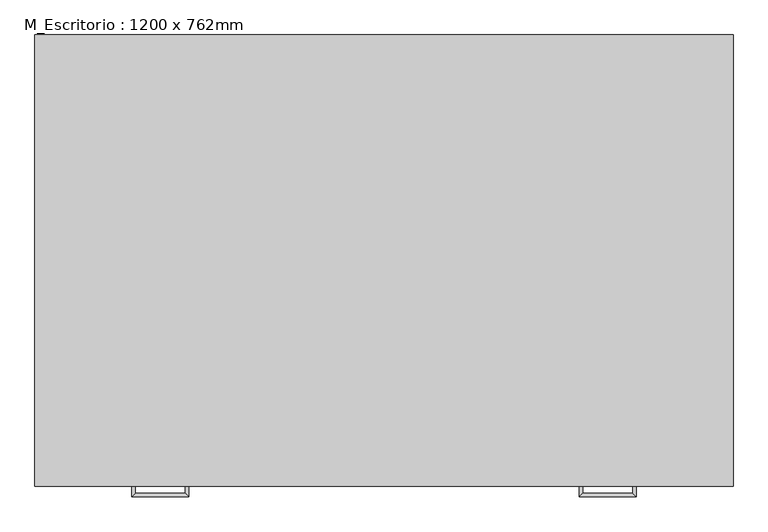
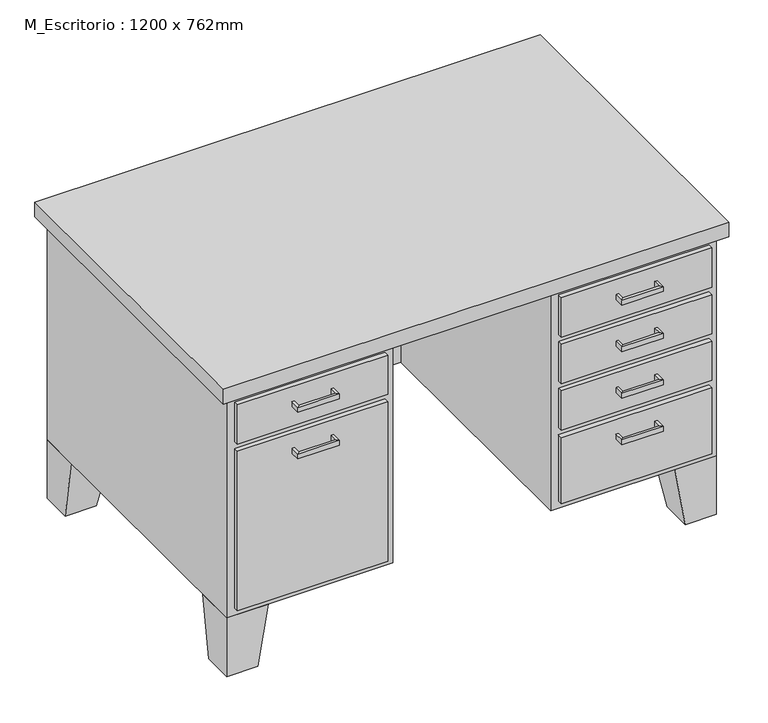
"""IFC4 building model written with IfcOpenShell, lengths in millimetres: furniture geometry, M_Escritorio : 1200 x 762mm."""

import ifcopenshell
import ifcopenshell.guid

model = None  # the IFC model being written
_history = None  # IfcOwnerHistory: only IFC2X3 demands one
_inside = {}  # id of a spatial element -> (the spatial element, [elements in it])
_under = {}  # id of a project, library or spatial element -> (it, [spatial elements below it])
_declared = {}  # id of a project -> (the project, [libraries it declares])
_typed = {}  # id of a type object -> (the type object, [elements of that type])
_made_of = {}  # id of a material, layer set ... -> (it, [elements and type objects made of it])


def new_model(schema):
    """Start an empty IFC model of exactly this schema.

    Asked for "IFC4X3", IfcOpenShell would pick the latest addendum, in which some entities
    have other attributes; the version numbers below select the first issue.
    IFC2X3 requires an IfcOwnerHistory on every rooted entity: one is made here for all.
    """
    global model, _history
    if schema == "IFC4X3":
        model = ifcopenshell.file(schema_version=(4, 3, 0, 0))
    else:
        model = ifcopenshell.file(schema=schema)
    _inside.clear()
    _under.clear()
    _declared.clear()
    _typed.clear()
    _made_of.clear()
    _history = None
    if model.schema == "IFC2X3":
        org = make("IfcOrganization", Name="unknown")
        user = make(
            "IfcPersonAndOrganization",
            ThePerson=make("IfcPerson", FamilyName="unknown"),
            TheOrganization=org,
        )
        app = make(
            "IfcApplication",
            ApplicationDeveloper=org,
            Version="unknown",
            ApplicationFullName="unknown",
            ApplicationIdentifier="unknown",
        )
        _history = make(
            "IfcOwnerHistory",
            OwningUser=user,
            OwningApplication=app,
            ChangeAction="ADDED",
            CreationDate=0,
        )
    return model


def make(cls, **values):
    """One entity of the class cls with the attributes given. An attribute that is None is left unset."""
    return model.create_entity(
        cls, **{name: value for name, value in values.items() if value is not None}
    )


def rooted(cls, **values):
    """An entity with a GlobalId (a new one), such as an element, a storey or a relation."""
    return make(cls, GlobalId=ifcopenshell.guid.new(), OwnerHistory=_history, **values)


def si_unit(unit_type, name, prefix=None):
    """IfcSIUnit, for example si_unit("LENGTHUNIT", "METRE", prefix="MILLI")."""
    return make("IfcSIUnit", UnitType=unit_type, Prefix=prefix, Name=name)


def assignment(units):
    """IfcUnitAssignment: the units of a project."""
    return None if units is None else make("IfcUnitAssignment", Units=units)


def point(xyz):
    """IfcCartesianPoint."""
    return None if xyz is None else make("IfcCartesianPoint", Coordinates=xyz)


def direction(xyz):
    """IfcDirection."""
    return None if xyz is None else make("IfcDirection", DirectionRatios=xyz)


def frame(location, z_axis=None, x_axis=None):
    """IfcAxis2Placement3D, a coordinate frame: its origin and axes. An axis left out is left unset."""
    return make(
        "IfcAxis2Placement3D",
        Location=point(location),
        Axis=direction(z_axis),
        RefDirection=direction(x_axis),
    )


def origin():
    """The frame at (0, 0, 0) with its axes left unset."""
    return frame((0.0, 0.0, 0.0))


def place(relative_to, where):
    """IfcLocalPlacement: puts the frame where relative to a parent placement (None: the world)."""
    return make(
        "IfcLocalPlacement", PlacementRelTo=relative_to, RelativePlacement=where
    )


def context(
    kind, dimensions, precision=None, world=None, true_north=None, identifier=None
):
    """IfcGeometricRepresentationContext, for example the 3D "Model" context."""
    return make(
        "IfcGeometricRepresentationContext",
        ContextIdentifier=identifier,
        ContextType=kind,
        CoordinateSpaceDimension=dimensions,
        Precision=precision,
        WorldCoordinateSystem=world,
        TrueNorth=true_north,
    )


def project(units=None, contexts=None):
    """IfcProject with its units and contexts."""
    return rooted(
        "IfcProject",
        Name="project",
        RepresentationContexts=contexts,
        UnitsInContext=assignment(units),
    )


def spatial(cls, under=None, at=None, **own):
    """A site, building, storey or space (cls), placed at a placement, below another one or the project."""
    s = rooted(cls, ObjectPlacement=at, **own)
    if under is not None:
        _under.setdefault(under.id(), (under, []))[1].append(s)
    return s


def polyline(points):
    """IfcPolyline through the points."""
    return make("IfcPolyline", Points=[point(p) for p in points])


def outline(outer, holes=None, kind="AREA"):
    """IfcArbitraryClosedProfileDef: a profile drawn as a closed curve; with holes, ...WithVoids."""
    if holes is None:
        return make("IfcArbitraryClosedProfileDef", ProfileType=kind, OuterCurve=outer)
    return make(
        "IfcArbitraryProfileDefWithVoids",
        ProfileType=kind,
        OuterCurve=outer,
        InnerCurves=holes,
    )


def extrude(swept, where, along, depth):
    """IfcExtrudedAreaSolid: the profile swept, set in the frame where, extruded along a direction by depth."""
    return make(
        "IfcExtrudedAreaSolid",
        SweptArea=swept,
        Position=where,
        ExtrudedDirection=direction(along),
        Depth=depth,
    )


def faces_of(points, faces, orient=None, outer=None):
    """IfcFace entities. A face is a list of loops; a loop is a list of indices into points, from 0.

    orient and outer hold one flag for each loop. By default every Orientation is true, the
    first loop of a face is its IfcFaceOuterBound and the others are IfcFaceBound.
    """
    made = []
    for i, loops in enumerate(faces):
        bounds = []
        for j, loop in enumerate(loops):
            is_outer = j == 0 if outer is None else outer[i][j]
            bounds.append(
                make(
                    "IfcFaceOuterBound" if is_outer else "IfcFaceBound",
                    Bound=make("IfcPolyLoop", Polygon=[points[k] for k in loop]),
                    Orientation=True if orient is None else orient[i][j],
                )
            )
        made.append(make("IfcFace", Bounds=bounds))
    return made


def faceted_brep(points, faces, orient=None, outer=None, voids=None):
    """IfcFacetedBrep: a solid bounded by flat faces; with voids (closed shells), ...WithVoids."""
    shared = [point(p) for p in points]
    hull = make("IfcClosedShell", CfsFaces=faces_of(shared, faces, orient, outer))
    if voids is None:
        return make("IfcFacetedBrep", Outer=hull)
    return make(
        "IfcFacetedBrepWithVoids",
        Outer=hull,
        Voids=[
            make(cls, CfsFaces=faces_of(shared, fs, o, b)) for cls, fs, o, b in voids
        ],
    )


def shape(context_of_items, identifier, shape_type, items):
    """IfcShapeRepresentation: the items that make up one representation, for example the "Body"."""
    return make(
        "IfcShapeRepresentation",
        ContextOfItems=context_of_items,
        RepresentationIdentifier=identifier,
        RepresentationType=shape_type,
        Items=items,
    )


def source(mapping_origin, context_of_items, identifier, shape_type, items):
    """IfcRepresentationMap: a shape defined once, which mapped items show again and again."""
    return make(
        "IfcRepresentationMap",
        MappingOrigin=mapping_origin,
        MappedRepresentation=shape(context_of_items, identifier, shape_type, items),
    )


def transform(
    local_origin,
    x_axis=None,
    y_axis=None,
    z_axis=None,
    scale=None,
    scale2=None,
    scale3=None,
    uniform=True,
):
    """IfcCartesianTransformationOperator3D, or its non-uniform kind. x_axis, y_axis, z_axis: its Axis1, 2, 3."""
    if uniform:
        return make(
            "IfcCartesianTransformationOperator3D",
            Axis1=direction(x_axis),
            Axis2=direction(y_axis),
            LocalOrigin=point(local_origin),
            Scale=scale,
            Axis3=direction(z_axis),
        )
    return make(
        "IfcCartesianTransformationOperator3DnonUniform",
        Axis1=direction(x_axis),
        Axis2=direction(y_axis),
        LocalOrigin=point(local_origin),
        Scale=scale,
        Axis3=direction(z_axis),
        Scale2=scale2,
        Scale3=scale3,
    )


def mapped(mapping_source, mapping_target):
    """IfcMappedItem: shows the shape of a source again, moved by a transform."""
    return make(
        "IfcMappedItem", MappingSource=mapping_source, MappingTarget=mapping_target
    )


def made_of(thing, what):
    """Note that an element or type object is made of a material, layer set ...; save() writes the relation."""
    if what is not None:
        _made_of.setdefault(what.id(), (what, []))[1].append(thing)
    return thing


def element(
    cls,
    number,
    at=None,
    inside=None,
    cuts=None,
    type_object=None,
    material=None,
    context=None,
    identifier="Body",
    shape_type=None,
    held_by="IfcProductDefinitionShape",
    body=None,
    shapes=None,
    **own,
):
    """One element of the class cls, such as IfcWall. Its Tag is "e" and its number.

    at: its placement. inside: the storey or other place that contains it. cuts: it is an
    opening in that element (IfcRelVoidsElement). A single representation is given by context,
    identifier, shape_type and body (its items); several are given by shapes. held_by: the class
    of the entity that holds the representations. save() writes the other relations.
    """
    e = rooted(cls, Tag="e%d" % number, ObjectPlacement=at, **own)
    if body is not None:
        shapes = [shape(context, identifier, shape_type, body)]
    if shapes is not None:
        e.Representation = make(held_by, Representations=shapes)
    if inside is not None:
        _inside.setdefault(inside.id(), (inside, []))[1].append(e)
    if cuts is not None:
        rooted(
            "IfcRelVoidsElement", RelatingBuildingElement=cuts, RelatedOpeningElement=e
        )
    if type_object is not None:
        _typed.setdefault(type_object.id(), (type_object, []))[1].append(e)
    return made_of(e, material)


def aggregate(whole, parts):
    """IfcRelAggregates: a whole, such as a stair, and the parts it consists of."""
    return rooted("IfcRelAggregates", RelatingObject=whole, RelatedObjects=parts)


def save(model, path):
    """Write the relations noted so far, then the file.

    IfcRelAggregates (storeys below a building ...), IfcRelContainedInSpatialStructure (elements
    in a storey), IfcRelDefinesByType, IfcRelAssociatesMaterial and IfcRelDeclares: one each for
    every whole, place, type object, material and project.
    """
    for whole, parts in _under.values():
        aggregate(whole, parts)
    for where, things in _inside.values():
        rooted(
            "IfcRelContainedInSpatialStructure",
            RelatedElements=things,
            RelatingStructure=where,
        )
    for kind, things in _typed.values():
        rooted("IfcRelDefinesByType", RelatedObjects=things, RelatingType=kind)
    for what, things in _made_of.values():
        rooted("IfcRelAssociatesMaterial", RelatedObjects=things, RelatingMaterial=what)
    for by, libraries in _declared.values():
        rooted("IfcRelDeclares", RelatingContext=by, RelatedDefinitions=libraries)
    model.write(path)


def m_escritorio_1200_x_762mm_441a5315(model_context):
    return source(origin(), model_context, "Body", "SolidModel", [
        extrude(outline(polyline([(955.6, 0.0), (955.6, 635.0), (568.4, 635.0), (568.4, 0.0), (162.0, 0.0), (162.0, 762.0), (1362.0, 762.0), (1362.0, 0.0), (955.6, 0.0)])), frame((0.0, 0.0, 152.0), z_axis=(0.0, 0.0, 1.0), x_axis=(1.0, 0.0, 0.0)), (0.0, 0.0, 1.0), 571.9),
        extrude(outline(polyline([(142.95, -19.05), (142.95, 781.05), (1381.05, 781.05), (1381.05, -19.05), (142.95, -19.05)])), frame((0.0, 0.0, 723.9), z_axis=(0.0, 0.0, 1.0), x_axis=(1.0, 0.0, 0.0)), (0.0, 0.0, 1.0), 38.1),
        faceted_brep([(1260.4, 0.0, 152.0), (1362.0, 0.0, 152.0), (1362.0, 101.6, 152.0), (1260.4, 101.6, 152.0), (1285.8, 0.0, 0.0), (1285.8, 76.2, 0.0), (1362.0, 76.2, 0.0), (1362.0, 0.0, 0.0)], [[[0, 1, 2, 3]], [[4, 5, 6, 7]], [[4, 7, 1, 0]], [[7, 6, 2, 1]], [[6, 5, 3, 2]], [[5, 4, 0, 3]]]),
        faceted_brep([(1260.4, 762.0, 152.0), (1260.4, 660.4, 152.0), (1362.0, 660.4, 152.0), (1362.0, 762.0, 152.0), (1285.8, 762.0, 0.0), (1362.0, 762.0, 0.0), (1362.0, 685.8, 0.0), (1285.8, 685.8, 0.0)], [[[0, 1, 2, 3]], [[4, 5, 6, 7]], [[4, 7, 1, 0]], [[7, 6, 2, 1]], [[6, 5, 3, 2]], [[5, 4, 0, 3]]]),
        faceted_brep([(263.6, 762.0, 152.0), (162.0, 762.0, 152.0), (162.0, 660.4, 152.0), (263.6, 660.4, 152.0), (238.2, 762.0, 0.0), (238.2, 685.8, 0.0), (162.0, 685.8, 0.0), (162.0, 762.0, 0.0)], [[[0, 1, 2, 3]], [[4, 5, 6, 7]], [[4, 7, 1, 0]], [[7, 6, 2, 1]], [[6, 5, 3, 2]], [[5, 4, 0, 3]]]),
        faceted_brep([(263.6, 0.0, 152.0), (263.6, 101.6, 152.0), (162.0, 101.6, 152.0), (162.0, 0.0, 152.0), (238.2, 0.0, 0.0), (162.0, 0.0, 0.0), (162.0, 76.2, 0.0), (238.2, 76.2, 0.0)], [[[0, 1, 2, 3]], [[4, 5, 6, 7]], [[4, 7, 1, 0]], [[7, 6, 2, 1]], [[6, 5, 3, 2]], [[5, 4, 0, 3]]]),
        extrude(outline(polyline([(974.65, 0.0), (1342.95, 0.0), (1342.95, -12.7), (974.65, -12.7), (974.65, 0.0)])), frame((0.0, 0.0, 602.85), z_axis=(0.0, 0.0, 1.0), x_axis=(1.0, 0.0, 0.0)), (0.0, 0.0, 1.0), 102.0),
        extrude(outline(polyline([(974.65, 0.0), (1342.95, 0.0), (1342.95, -12.7), (974.65, -12.7), (974.65, 0.0)])), frame((0.0, 0.0, 171.05), z_axis=(0.0, 0.0, 1.0), x_axis=(1.0, 0.0, 0.0)), (0.0, 0.0, 1.0), 171.45),
        extrude(outline(polyline([(974.65, 0.0), (1342.95, 0.0), (1342.95, -12.7), (974.65, -12.7), (974.65, 0.0)])), frame((0.0, 0.0, 482.2), z_axis=(0.0, 0.0, 1.0), x_axis=(1.0, 0.0, 0.0)), (0.0, 0.0, 1.0), 101.6),
        extrude(outline(polyline([(974.65, 0.0), (1342.95, 0.0), (1342.95, -12.7), (974.65, -12.7), (974.65, 0.0)])), frame((0.0, 0.0, 361.55), z_axis=(0.0, 0.0, 1.0), x_axis=(1.0, 0.0, 0.0)), (0.0, 0.0, 1.0), 101.6),
        extrude(outline(polyline([(181.05, 0.0), (549.35, 0.0), (549.35, -12.7), (181.05, -12.7), (181.05, 0.0)])), frame((0.0, 0.0, 603.25), z_axis=(0.0, 0.0, 1.0), x_axis=(1.0, 0.0, 0.0)), (0.0, 0.0, 1.0), 101.6),
        extrude(outline(polyline([(181.05, 0.0), (549.35, 0.0), (549.35, -12.7), (181.05, -12.7), (181.05, 0.0)])), frame((0.0, 0.0, 171.05), z_axis=(0.0, 0.0, 1.0), x_axis=(1.0, 0.0, 0.0)), (0.0, 0.0, 1.0), 413.15),
        faceted_brep([(1203.25, -12.7, 304.8), (1209.6, -12.7, 304.8), (1209.6, -12.7, 292.1), (1203.25, -12.7, 292.1), (1203.25, -31.75, 304.8), (1209.6, -38.1, 304.8), (1209.6, -38.1, 292.1), (1203.25, -31.75, 292.1), (1114.35, -31.75, 304.8), (1108.0, -38.1, 304.8), (1108.0, -38.1, 292.1), (1114.35, -31.75, 292.1), (1114.35, -12.7, 304.8), (1114.35, -12.7, 292.1), (1108.0, -12.7, 292.1), (1108.0, -12.7, 304.8)], [[[0, 1, 2, 3]], [[1, 0, 4, 5]], [[2, 1, 5, 6]], [[3, 2, 6, 7]], [[0, 3, 7, 4]], [[5, 4, 8, 9]], [[6, 5, 9, 10]], [[7, 6, 10, 11]], [[4, 7, 11, 8]], [[12, 13, 14, 15]], [[9, 8, 12, 15]], [[10, 9, 15, 14]], [[11, 10, 14, 13]], [[8, 11, 13, 12]]]),
        faceted_brep([(1203.25, -12.7, 425.45), (1209.6, -12.7, 425.45), (1209.6, -12.7, 412.75), (1203.25, -12.7, 412.75), (1203.25, -31.75, 425.45), (1209.6, -38.1, 425.45), (1209.6, -38.1, 412.75), (1203.25, -31.75, 412.75), (1114.35, -31.75, 425.45), (1108.0, -38.1, 425.45), (1108.0, -38.1, 412.75), (1114.35, -31.75, 412.75), (1114.35, -12.7, 425.45), (1114.35, -12.7, 412.75), (1108.0, -12.7, 412.75), (1108.0, -12.7, 425.45)], [[[0, 1, 2, 3]], [[1, 0, 4, 5]], [[2, 1, 5, 6]], [[3, 2, 6, 7]], [[0, 3, 7, 4]], [[5, 4, 8, 9]], [[6, 5, 9, 10]], [[7, 6, 10, 11]], [[4, 7, 11, 8]], [[12, 13, 14, 15]], [[9, 8, 12, 15]], [[10, 9, 15, 14]], [[11, 10, 14, 13]], [[8, 11, 13, 12]]]),
        faceted_brep([(1203.25, -12.7, 546.1), (1209.6, -12.7, 546.1), (1209.6, -12.7, 533.4), (1203.25, -12.7, 533.4), (1203.25, -31.75, 546.1), (1209.6, -38.1, 546.1), (1209.6, -38.1, 533.4), (1203.25, -31.75, 533.4), (1114.35, -31.75, 546.1), (1108.0, -38.1, 546.1), (1108.0, -38.1, 533.4), (1114.35, -31.75, 533.4), (1114.35, -12.7, 546.1), (1114.35, -12.7, 533.4), (1108.0, -12.7, 533.4), (1108.0, -12.7, 546.1)], [[[0, 1, 2, 3]], [[1, 0, 4, 5]], [[2, 1, 5, 6]], [[3, 2, 6, 7]], [[0, 3, 7, 4]], [[5, 4, 8, 9]], [[6, 5, 9, 10]], [[7, 6, 10, 11]], [[4, 7, 11, 8]], [[12, 13, 14, 15]], [[9, 8, 12, 15]], [[10, 9, 15, 14]], [[11, 10, 14, 13]], [[8, 11, 13, 12]]]),
        faceted_brep([(1203.25, -12.7, 666.75), (1209.6, -12.7, 666.75), (1209.6, -12.7, 654.05), (1203.25, -12.7, 654.05), (1203.25, -31.75, 666.75), (1209.6, -38.1, 666.75), (1209.6, -38.1, 654.05), (1203.25, -31.75, 654.05), (1114.35, -31.75, 666.75), (1108.0, -38.1, 666.75), (1108.0, -38.1, 654.05), (1114.35, -31.75, 654.05), (1114.35, -12.7, 666.75), (1114.35, -12.7, 654.05), (1108.0, -12.7, 654.05), (1108.0, -12.7, 666.75)], [[[0, 1, 2, 3]], [[1, 0, 4, 5]], [[2, 1, 5, 6]], [[3, 2, 6, 7]], [[0, 3, 7, 4]], [[5, 4, 8, 9]], [[6, 5, 9, 10]], [[7, 6, 10, 11]], [[4, 7, 11, 8]], [[12, 13, 14, 15]], [[9, 8, 12, 15]], [[10, 9, 15, 14]], [[11, 10, 14, 13]], [[8, 11, 13, 12]]]),
        faceted_brep([(320.75, -12.7, 546.1), (320.75, -12.7, 533.4), (314.4, -12.7, 533.4), (314.4, -12.7, 546.1), (320.75, -31.75, 546.1), (320.75, -31.75, 533.4), (314.4, -38.1, 533.4), (314.4, -38.1, 546.1), (409.65, -31.75, 546.1), (409.65, -31.75, 533.4), (416.0, -38.1, 533.4), (416.0, -38.1, 546.1), (409.65, -12.7, 546.1), (416.0, -12.7, 546.1), (416.0, -12.7, 533.4), (409.65, -12.7, 533.4)], [[[0, 1, 2, 3]], [[1, 0, 4, 5]], [[2, 1, 5, 6]], [[3, 2, 6, 7]], [[0, 3, 7, 4]], [[5, 4, 8, 9]], [[6, 5, 9, 10]], [[7, 6, 10, 11]], [[4, 7, 11, 8]], [[12, 13, 14, 15]], [[9, 8, 12, 15]], [[10, 9, 15, 14]], [[11, 10, 14, 13]], [[8, 11, 13, 12]]]),
        faceted_brep([(320.75, -12.7, 666.75), (320.75, -12.7, 654.05), (314.4, -12.7, 654.05), (314.4, -12.7, 666.75), (320.75, -31.75, 666.75), (320.75, -31.75, 654.05), (314.4, -38.1, 654.05), (314.4, -38.1, 666.75), (409.65, -31.75, 666.75), (409.65, -31.75, 654.05), (416.0, -38.1, 654.05), (416.0, -38.1, 666.75), (409.65, -12.7, 666.75), (416.0, -12.7, 666.75), (416.0, -12.7, 654.05), (409.65, -12.7, 654.05)], [[[0, 1, 2, 3]], [[1, 0, 4, 5]], [[2, 1, 5, 6]], [[3, 2, 6, 7]], [[0, 3, 7, 4]], [[5, 4, 8, 9]], [[6, 5, 9, 10]], [[7, 6, 10, 11]], [[4, 7, 11, 8]], [[12, 13, 14, 15]], [[9, 8, 12, 15]], [[10, 9, 15, 14]], [[11, 10, 14, 13]], [[8, 11, 13, 12]]]),
    ])


if __name__ == "__main__":
    model = new_model("IFC4")
    model_context = context("Model", 3, world=origin())
    ifc_project = project(units=[si_unit("LENGTHUNIT", "METRE", prefix="MILLI")], contexts=[model_context])
    site = spatial("IfcSite", under=ifc_project)
    building = spatial("IfcBuilding", under=site)
    placement = place(None, origin())
    m_escritorio_1200_x_762mm_shape = m_escritorio_1200_x_762mm_441a5315(model_context)
    element("IfcFurniture", 1, ObjectType="M_Escritorio : 1200 x 762mm", at=placement, inside=building, context=model_context, shape_type="MappedRepresentation", body=[
        mapped(m_escritorio_1200_x_762mm_shape, transform((0.0, 0.0, 0.0), x_axis=(1.0, 0.0, 0.0), y_axis=(0.0, 1.0, 0.0), z_axis=(0.0, 0.0, 1.0))),
    ])
    save(model, "model.ifc")
